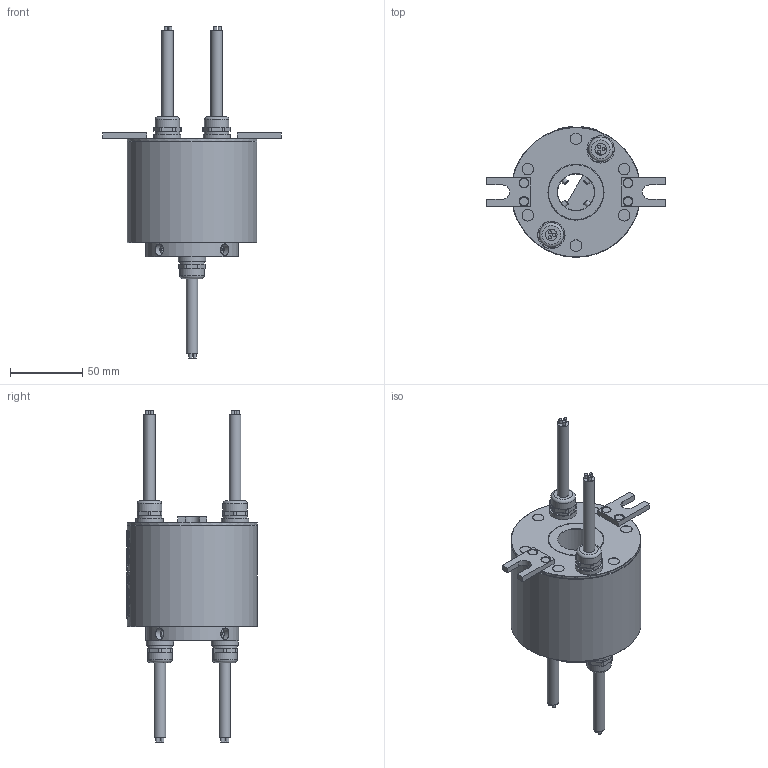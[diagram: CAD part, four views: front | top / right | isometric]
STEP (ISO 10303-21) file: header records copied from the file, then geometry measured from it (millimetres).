
FILE_DESCRIPTION(/* description */ (''),/* implementation_level */ '2;1');
FILE_NAME(/* name */ 'HDF2590-0610-3D模型.stp',/* time_stamp */ '2025-09-23T14:55:46+08:00',/* author */ (''),/* organization */ (''),/* preprocessor_version */ 'ST-DEVELOPER v16.7',/* originating_system */ 'SIEMENS PLM Software NX 12.0',/* authorisation */ '');
FILE_SCHEMA (('AUTOMOTIVE_DESIGN { 1 0 10303 214 3 1 1 1 }'));
Length unit declared in the file: millimetre
Products named in the file (1): Admi8A8072AE0why
Bounding box: 124 x 90.42 x 230 mm (x, y, z)
Volume: 476225.3 mm3; surface area: 56535 mm2
Topology: 1 solids, 4 shells, 876 faces, 2257 edges, 1488 vertices
Faces by surface type: plane 406, extrusion 313, cylinder 101, bspline 30, cone 17, torus 9
Full cylindrical faces by diameter (mm): 2.2 x12, 4 x4, 6 x4, 7 x4, 8 x14, 10.2 x2, 17 x8, 19 x4, 25.4 x1, 38.4 x1, 38.8 x1, 42 x1, 64.4 x1, 64.8 x1, 77.4 x1, 84.2 x1, 90 x2
Entity records: 31801 total; most frequent: CARTESIAN_POINT 13365, ORIENTED_EDGE 4258, DIRECTION 2579, EDGE_CURVE 2129, B_SPLINE_CURVE_WITH_KNOTS 1645, VERTEX_POINT 1448, EDGE_LOOP 1067, AXIS2_PLACEMENT_3D 934
